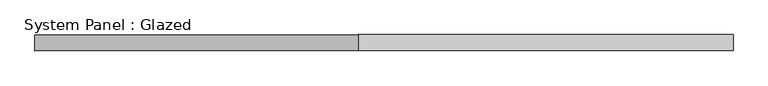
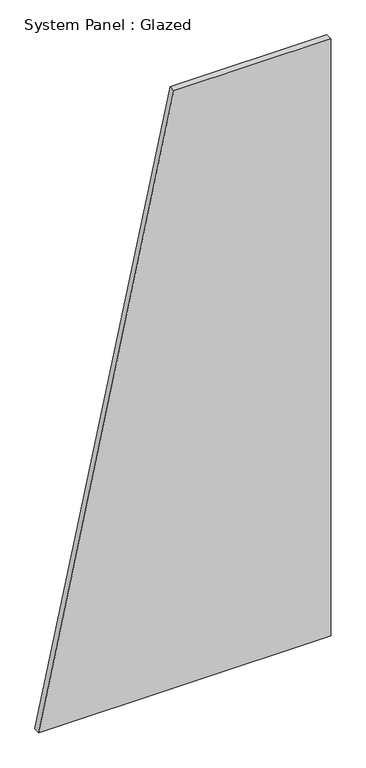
"""IFC4 building model written with IfcOpenShell, lengths in millimetres: plate geometry, System Panel : Glazed."""

from ifc_helpers import new_model, si_unit, frame, origin, place, context, project, spatial, polyline, outline, extrude, source, transform, mapped, element, save


def system_panel_glazed_f5b096f9(model_context):
    return source(origin(), model_context, "Body", "SweptSolid", [
        extrude(outline(polyline([(0.0, -542.7548446), (0.0, 542.7548446), (2350.0, 542.7548446), (2350.0, -40.2287753), (0.0, -542.7548446)])), frame((0.0, -49.5, 0.0), z_axis=(0.0, 1.0, 0.0), x_axis=(0.0, 0.0, 1.0)), (0.0, 0.0, 1.0), 25.0),
    ])


if __name__ == "__main__":
    model = new_model("IFC4")
    model_context = context("Model", 3, world=origin())
    ifc_project = project(units=[si_unit("LENGTHUNIT", "METRE", prefix="MILLI")], contexts=[model_context])
    site = spatial("IfcSite", under=ifc_project)
    building = spatial("IfcBuilding", under=site)
    placement = place(None, origin())
    system_panel_glazed_shape = system_panel_glazed_f5b096f9(model_context)
    element("IfcPlate", 1, ObjectType="System Panel : Glazed", at=placement, inside=building, context=model_context, shape_type="MappedRepresentation", body=[
        mapped(system_panel_glazed_shape, transform((0.0, 0.0, 0.0), x_axis=(1.0, 0.0, 0.0), y_axis=(0.0, 1.0, 0.0), z_axis=(0.0, 0.0, 1.0))),
    ])
    save(model, "model.ifc")
